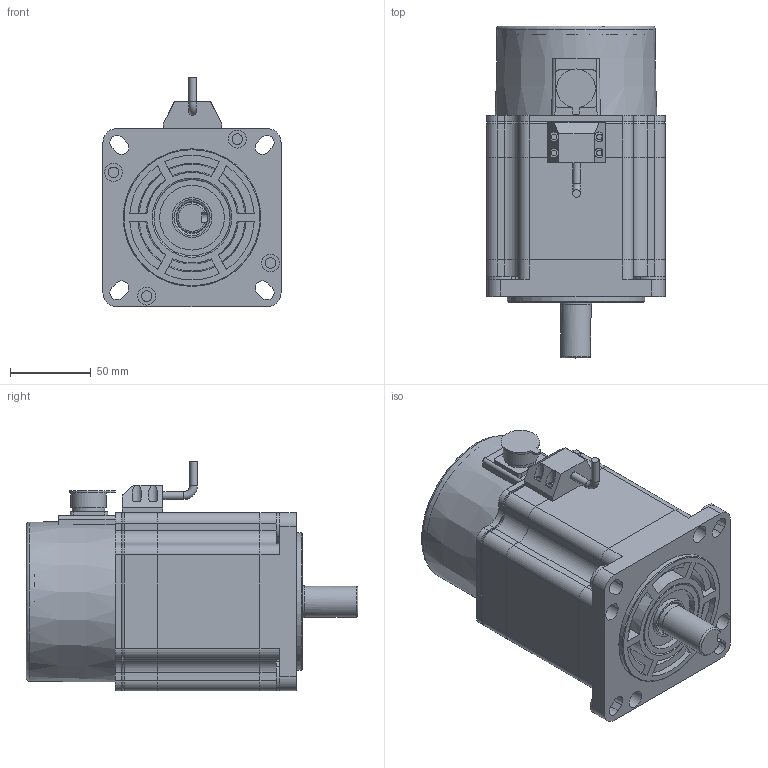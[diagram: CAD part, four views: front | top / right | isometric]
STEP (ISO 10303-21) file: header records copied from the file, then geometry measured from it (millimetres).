
FILE_DESCRIPTION(/* description */ (''),/* implementation_level */ '2;1');
FILE_NAME(/* name */ '110BYG350A(止口φ85)刹车电机外形图.stp',/* time_stamp */ '2024-08-16T09:51:20+08:00',/* author */ (''),/* organization */ (''),/* preprocessor_version */ 'ST-DEVELOPER v18.1',/* originating_system */ 'SIEMENS PLM Software NX 2000',/* authorisation */ '');
FILE_SCHEMA (('AUTOMOTIVE_DESIGN { 1 0 10303 214 3 1 1 1 }'));
Length unit declared in the file: millimetre
Products named in the file (1): 925032A4A3696tjw
Bounding box: 110 x 205 x 141.72 mm (x, y, z)
Volume: 1220283.5 mm3; surface area: 202229.6 mm2
Topology: 10 solids, 10 shells, 548 faces, 1493 edges, 984 vertices
Faces by surface type: plane 358, cylinder 147, cone 26, torus 17
Full cylindrical faces by diameter (mm): 3 x4, 3.5 x4, 4.8 x2, 6 x4, 6.5 x12, 7 x1, 11 x4, 16.5 x1, 19 x1, 19.7 x1, 20 x1, 20.196 x2, 22.032 x1, 22.288 x1, 24.616 x1, 40 x1, 47 x2, 85 x1
Entity records: 17433 total; most frequent: CARTESIAN_POINT 3366, DIRECTION 2816, ORIENTED_EDGE 2806, EDGE_CURVE 1403, LINE 1020, VECTOR 1020, VERTEX_POINT 953, AXIS2_PLACEMENT_3D 898
